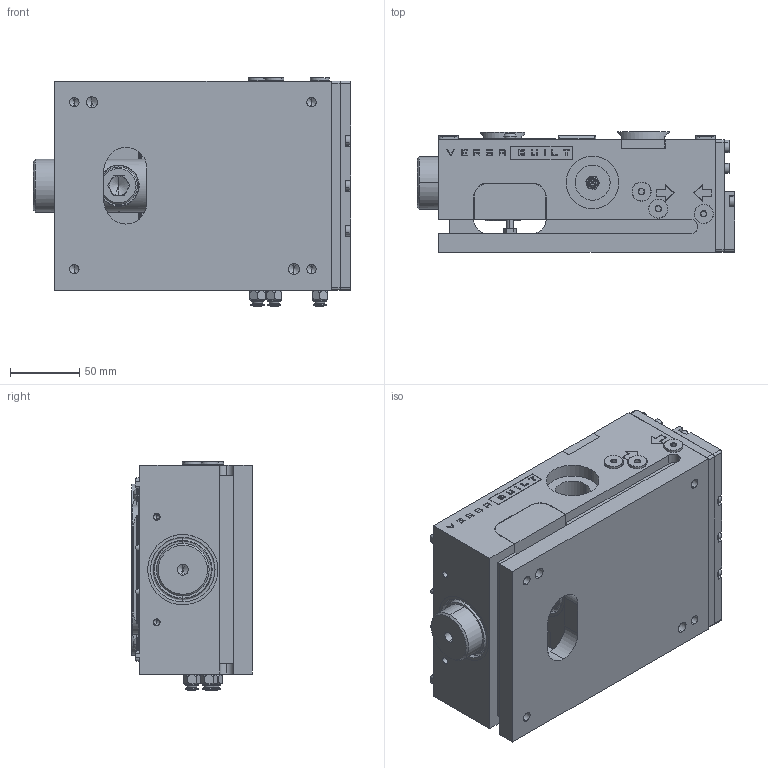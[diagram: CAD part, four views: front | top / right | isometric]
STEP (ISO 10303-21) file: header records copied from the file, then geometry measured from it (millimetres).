
FILE_DESCRIPTION (( 'STEP AP203' ), '1' );
FILE_NAME ('VERSABUILT MULTIGRIP VISE 2000 - STANDARD - 2025-05-14.STEP', '2025-05-15T00:08:47', ( '' ), ( '' ), 'SwSTEP 2.0', 'SolidWorks 2019', '' );
FILE_SCHEMA (( 'CONFIG_CONTROL_DESIGN' ));
Length unit declared in the file: inch
Products named in the file (32): 5009522_Default Configuration; M5x0.8 HHCS_HHCS M5x0.8x16-C; 5009523_Default Configuration; 5008663_91259A716; M5X0.80 BHCS_BHCS M5x0.8 x 10mm; M8 DOWEL PIN_M8 DOWEL PIN x 20mm; 5010570_Default Configuration; M4x0.7 SHCS_SHCS M4-0.7 x 16; 5009560_1504N19; 5009521_Default Configuration; 5009519_As Machined; M18x2.5 SHCS_M18x2.5 SHCS x 30; 5009520_Default Configuration; 5008713_Default Configuration; 5008611_As Machined; 5001681_51495K182; M8 SEALING WASHER_93303A103; 5009563_MG 100 PISTON; M8x1.00 SHCS_M8x1.00 SHCS x 12; 5008737_Default Configuration; VERSABUILT MULTIGRIP VISE 2000 - STANDARD - 2025-05-14; M8x1.25 SHCS_SHCS M8-1.25 x 16; M4x0.7 SHCS_SHCS M4-0.7 x 12; 5010104_Default Configuration; 5011369_Default Configuration; M10x1.5 SHCS_SHCS M10-1.5 x 25; 5009562_MG FJ 100 VISE - END PLATE FACE SEAL; 5013217_1095K111; 5010591_94669A031; 5008505_9452K24; M5x0.8 FHCS_M5x0.8 FHCS x 8mm; M5 DOWEL PIN_DP M5 X 16mm
Assembly tree (59 placements, depth 2):
  5008737_Default Configuration
  VERSABUILT MULTIGRIP VISE 2000 - STANDARD - 2025-05-14
    5009519_As Machined
    5009522_Default Configuration
    5008663_91259A716
    5009520_Default Configuration
    5009521_Default Configuration
    5009523_Default Configuration
    5008713_Default Configuration
    5010104_Default Configuration
    M10x1.5 SHCS_SHCS M10-1.5 x 25  x3
    M5x0.8 FHCS_M5x0.8 FHCS x 8mm  x2
    M8 DOWEL PIN_M8 DOWEL PIN x 20mm  x2
    M4x0.7 SHCS_SHCS M4-0.7 x 12  x7
    M4x0.7 SHCS_SHCS M4-0.7 x 16  x7
    M5 DOWEL PIN_DP M5 X 16mm  x3
    M8 SEALING WASHER_93303A103
    M8x1.00 SHCS_M8x1.00 SHCS x 12
    M8x1.25 SHCS_SHCS M8-1.25 x 16
    M18x2.5 SHCS_M18x2.5 SHCS x 30
    M5x0.8 HHCS_HHCS M5x0.8x16-C  x2
    M5X0.80 BHCS_BHCS M5x0.8 x 10mm  x2
    5008505_9452K24  x2
    5009562_MG FJ 100 VISE - END PLATE FACE SEAL
    5009563_MG 100 PISTON
    5009560_1504N19  x3
    5008611_As Machined  x3
    5011369_Default Configuration  x2
    5010570_Default Configuration
    5010591_94669A031  x2
    5013217_1095K111
    5001681_51495K182  x3
Bounding box: 229.36 x 87.03 x 165.47 mm (x, y, z)
Volume: 2118123.9 mm3; surface area: 398576 mm2
Topology: 71 solids, 71 shells, 2796 faces, 6657 edges, 4046 vertices
Faces by surface type: plane 1102, cylinder 829, cone 529, torus 263, bspline 67, sphere 6
Entity records: 69522 total; most frequent: CARTESIAN_POINT 17586, DIRECTION 10267, ORIENTED_EDGE 9712, EDGE_CURVE 4856, AXIS2_PLACEMENT_3D 3857, VERTEX_POINT 3048, VECTOR 2553, LINE 2553
